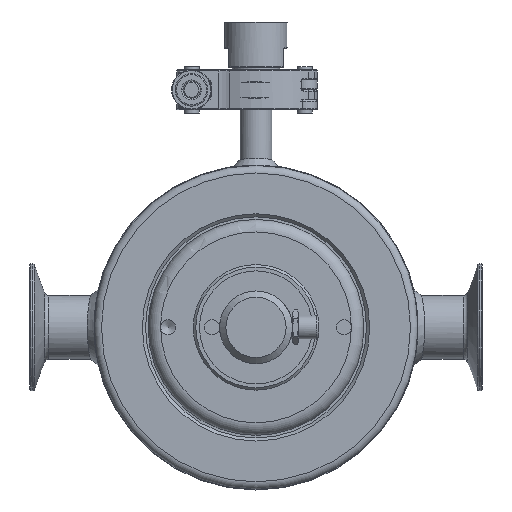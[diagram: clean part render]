
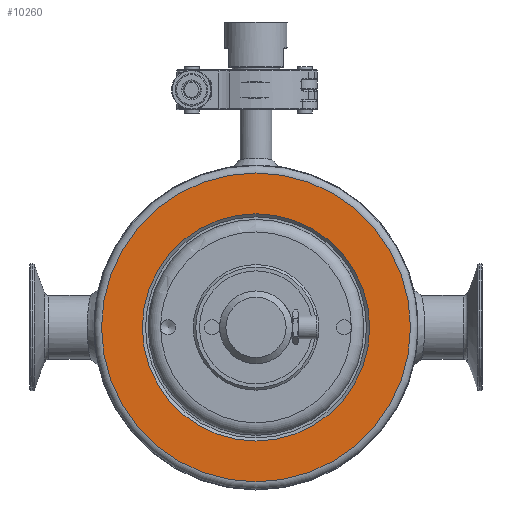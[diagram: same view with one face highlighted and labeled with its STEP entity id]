
A CAD part, front view. The second image highlights one B-rep face of the part: STEP entity #10260.
In plain terms, the highlighted planar face has unit normal (0, -1, 0).
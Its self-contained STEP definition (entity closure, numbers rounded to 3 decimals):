
#322=PLANE('',#11328);
#678=CIRCLE('',#11326,61.5);
#680=CIRCLE('',#11329,45.25);
#2627=FACE_BOUND('',#3443,.T.);
#2744=FACE_OUTER_BOUND('',#3442,.T.);
#3442=EDGE_LOOP('',(#7019));
#3443=EDGE_LOOP('',(#7020));
#4411=VERTEX_POINT('',#18944);
#4412=VERTEX_POINT('',#18948);
#5405=EDGE_CURVE('',#4411,#4411,#678,.T.);
#5407=EDGE_CURVE('',#4412,#4412,#680,.T.);
#7019=ORIENTED_EDGE('',*,*,#5405,.F.);
#7020=ORIENTED_EDGE('',*,*,#5407,.F.);
#10260=ADVANCED_FACE('',(#2744,#2627),#322,.T.);
#11326=AXIS2_PLACEMENT_3D('',#18945,#12950,#12951);
#11328=AXIS2_PLACEMENT_3D('',#18947,#12954,#12955);
#11329=AXIS2_PLACEMENT_3D('',#18949,#12956,#12957);
#12950=DIRECTION('center_axis',(0.,1.,0.));
#12951=DIRECTION('ref_axis',(-1.,0.,0.));
#12954=DIRECTION('center_axis',(0.,-1.,0.));
#12955=DIRECTION('ref_axis',(0.,0.,
-1.));
#12956=DIRECTION('center_axis',(0.,-1.,0.));
#12957=DIRECTION('ref_axis',(-1.,0.,0.));
#18944=CARTESIAN_POINT('',(0.,0.,61.5));
#18945=CARTESIAN_POINT('Origin',(0.,0.,
0.));
#18947=CARTESIAN_POINT('Origin',(43.25,0.,
0.));
#18948=CARTESIAN_POINT('',(45.25,0.,0.));
#18949=CARTESIAN_POINT('Origin',(0.,0.,
0.));
